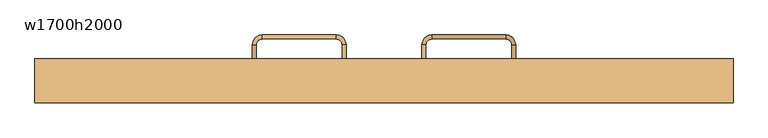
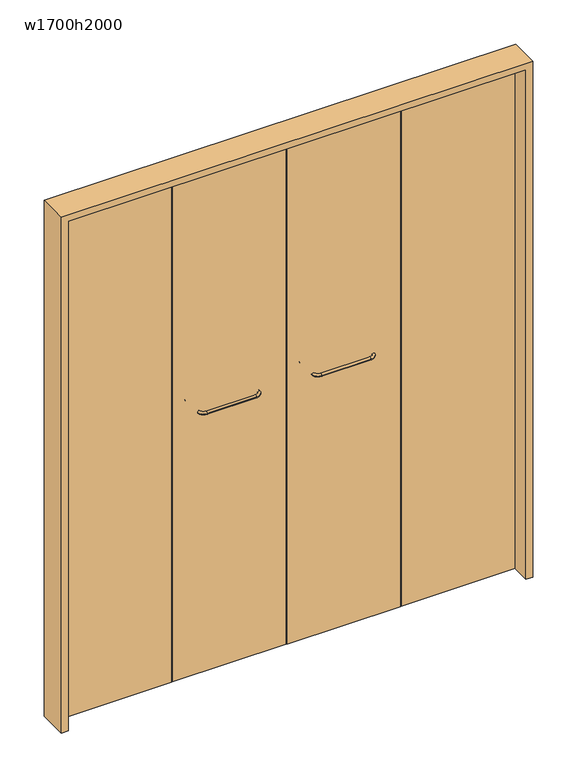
"""IFC4 building model written with IfcOpenShell, lengths in millimetres: door geometry, 木製折戸 : w1700h2000."""

from ifc_helpers import new_model, si_unit, point, frame, origin, origin_with_axes, place, context, project, spatial, polyline, circle_curve, ellipse_curve, trimmed, outline, extrude, source, transform, mapped, element, save
from ifc_brep_helpers import cylinder_surface, revolved_surface, advanced_brep


def w1700h2000_548ce087(model_context):
    return source(origin(), model_context, "Body", "SolidModel", [
        extrude(outline(polyline([(2025.0, -875.0), (0.0, -875.0), (0.0, -850.0), (2000.0, -850.0), (2000.0, 850.0), (0.0, 850.0), (0.0, 875.0), (2025.0, 875.0), (2025.0, -875.0)])), frame((0.0, -55.0, 0.0), z_axis=(0.0, 1.0, 0.0), x_axis=(0.0, 0.0, 1.0)), (0.0, 0.0, 1.0), 110.0),
        extrude(outline(polyline([(423.0, 15.0), (2.0, 15.0), (2.0, 45.0), (423.0, 45.0), (423.0, 15.0)])), origin_with_axes(), (0.0, 0.0, 1.0), 2000.0),
        extrude(outline(polyline([(850.0, 15.0), (427.0, 15.0), (427.0, 45.0), (850.0, 45.0), (850.0, 15.0)])), origin_with_axes(), (0.0, 0.0, 1.0), 2000.0),
        extrude(outline(polyline([(-2.0, 15.0), (-423.0, 15.0), (-423.0, 45.0), (-2.0, 45.0), (-2.0, 15.0)])), origin_with_axes(), (0.0, 0.0, 1.0), 2000.0),
        extrude(outline(polyline([(-427.0, 15.0), (-850.0, 15.0), (-850.0, 45.0), (-427.0, 45.0), (-427.0, 15.0)])), origin_with_axes(), (0.0, 0.0, 1.0), 2000.0),
        advanced_brep(
        [(95.0, 20.0, 1025.0), (120.0, -5.0, 1025.0), (120.0, 5.0, 1025.0), (105.0, 20.0, 1025.0), (105.0, 90.0, 1025.0), (95.0, 90.0, 1025.0), (120.0, 115.0, 1025.0), (120.0, 105.0, 1025.0), (305.0, 105.0, 1025.0), (305.0, 115.0, 1025.0), (330.0, 90.0, 1025.0), (320.0, 90.0, 1025.0), (320.0, 20.0, 1025.0), (330.0, 20.0, 1025.0), (305.0, -5.0, 1025.0), (305.0, 5.0, 1025.0)],
        [
            (0, 1, circle_curve(frame((120.0, 20.0, 1025.0), z_axis=(0.0, 0.0, 1.0), x_axis=(0.0, -1.0, 0.0)), 25.0)),
            (1, 2, circle_curve(frame((120.0, 0.0, 1025.0), z_axis=(-1.0, 0.0, 0.0), x_axis=(0.0, -1.0, 0.0)), 5.0)),
            (2, 3, circle_curve(frame((120.0, 20.0, 1025.0), z_axis=(0.0, 0.0, -1.0), x_axis=(0.0, -1.0, 0.0)), 15.0)),
            (3, 0, circle_curve(frame((100.0, 20.0, 1025.0), z_axis=(0.0, -1.0, 0.0), x_axis=(-1.0, 0.0, 0.0)), 5.0)),
            (2, 1, circle_curve(frame((120.0, 0.0, 1025.0), z_axis=(-1.0, 0.0, 0.0), x_axis=(0.0, -1.0, 0.0)), 5.0)),
            (0, 3, circle_curve(frame((100.0, 20.0, 1025.0), z_axis=(0.0, -1.0, 0.0), x_axis=(-1.0, 0.0, 0.0)), 5.0)),
            (3, 4),
            (4, 5, circle_curve(frame((100.0, 90.0, 1025.0), z_axis=(0.0, -1.0, 0.0), x_axis=(-1.0, 0.0, 0.0)), 5.0)),
            (5, 0),
            (5, 4, circle_curve(frame((100.0, 90.0, 1025.0), z_axis=(0.0, -1.0, 0.0), x_axis=(-1.0, 0.0, 0.0)), 5.0)),
            (6, 5, circle_curve(frame((120.0, 90.0, 1025.0), z_axis=(0.0, 0.0, 1.0), x_axis=(-1.0, 0.0, 0.0)), 25.0)),
            (4, 7, circle_curve(frame((120.0, 90.0, 1025.0), z_axis=(0.0, 0.0, -1.0), x_axis=(-1.0, 0.0, 0.0)), 15.0)),
            (7, 6, circle_curve(frame((120.0, 110.0, 1025.0), z_axis=(-1.0, 0.0, 0.0), x_axis=(0.0, 1.0, 0.0)), 5.0)),
            (6, 7, circle_curve(frame((120.0, 110.0, 1025.0), z_axis=(-1.0, 0.0, 0.0), x_axis=(0.0, 1.0, 0.0)), 5.0)),
            (7, 8),
            (8, 9, circle_curve(frame((305.0, 110.0, 1025.0), z_axis=(-1.0, 0.0, 0.0), x_axis=(0.0, 1.0, 0.0)), 5.0)),
            (9, 6),
            (9, 8, circle_curve(frame((305.0, 110.0, 1025.0), z_axis=(-1.0, 0.0, 0.0), x_axis=(0.0, 1.0, 0.0)), 5.0)),
            (10, 9, circle_curve(frame((305.0, 90.0, 1025.0), z_axis=(0.0, 0.0, 1.0), x_axis=(0.0, 1.0, 0.0)), 25.0)),
            (8, 11, circle_curve(frame((305.0, 90.0, 1025.0), z_axis=(0.0, 0.0, -1.0), x_axis=(0.0, 1.0, 0.0)), 15.0)),
            (11, 10, circle_curve(frame((325.0, 90.0, 1025.0), z_axis=(0.0, 1.0, 0.0), x_axis=(1.0, 0.0, 0.0)), 5.0)),
            (10, 11, circle_curve(frame((325.0, 90.0, 1025.0), z_axis=(0.0, 1.0, 0.0), x_axis=(1.0, 0.0, 0.0)), 5.0)),
            (11, 12),
            (12, 13, circle_curve(frame((325.0, 20.0, 1025.0), z_axis=(0.0, 1.0, 0.0), x_axis=(1.0, 0.0, 0.0)), 5.0)),
            (13, 10),
            (13, 12, circle_curve(frame((325.0, 20.0, 1025.0), z_axis=(0.0, 1.0, 0.0), x_axis=(1.0, 0.0, 0.0)), 5.0)),
            (14, 13, circle_curve(frame((305.0, 20.0, 1025.0), z_axis=(0.0, 0.0, 1.0), x_axis=(1.0, 0.0, 0.0)), 25.0)),
            (12, 15, circle_curve(frame((305.0, 20.0, 1025.0), z_axis=(0.0, 0.0, -1.0), x_axis=(1.0, 0.0, 0.0)), 15.0)),
            (15, 14, circle_curve(frame((305.0, 0.0, 1025.0), z_axis=(1.0, 0.0, 0.0), x_axis=(0.0, -1.0, 0.0)), 5.0)),
            (14, 15, circle_curve(frame((305.0, 0.0, 1025.0), z_axis=(1.0, 0.0, 0.0), x_axis=(0.0, -1.0, 0.0)), 5.0)),
            (15, 2),
            (1, 14),
        ],
        [
            revolved_surface(trimmed(ellipse_curve(frame((120.0, 0.0, 1025.0), z_axis=(1.0, 0.0, 0.0), x_axis=(0.0, -1.0, 0.0)), 5.0, 5.0), [point((120.0, 5.0, 1025.0))], [point((120.0, -5.0, 1025.0))], True, "CARTESIAN"), (120.0, 20.0, 0.0), (0.0, 0.0, -1.0)),
            revolved_surface(trimmed(ellipse_curve(frame((120.0, 0.0, 1025.0), z_axis=(1.0, 0.0, 0.0), x_axis=(0.0, -1.0, 0.0)), 5.0, 5.0), [point((120.0, -5.0, 1025.0))], [point((120.0, 5.0, 1025.0))], True, "CARTESIAN"), (120.0, 20.0, 0.0), (0.0, 0.0, -1.0)),
            cylinder_surface(frame((100.0, 20.0, 1025.0), z_axis=(0.0, -1.0, 0.0), x_axis=(-1.0, 0.0, 0.0)), 5.0),
            revolved_surface(trimmed(ellipse_curve(frame((100.0, 90.0, 1025.0), z_axis=(0.0, -1.0, 0.0), x_axis=(-1.0, 0.0, 0.0)), 5.0, 5.0), [point((105.0, 90.0, 1025.0))], [point((95.0, 90.0, 1025.0))], True, "CARTESIAN"), (120.0, 90.0, 0.0), (0.0, 0.0, -1.0)),
            revolved_surface(trimmed(ellipse_curve(frame((100.0, 90.0, 1025.0), z_axis=(0.0, -1.0, 0.0), x_axis=(-1.0, 0.0, 0.0)), 5.0, 5.0), [point((95.0, 90.0, 1025.0))], [point((105.0, 90.0, 1025.0))], True, "CARTESIAN"), (120.0, 90.0, 0.0), (0.0, 0.0, -1.0)),
            cylinder_surface(frame((120.0, 110.0, 1025.0), z_axis=(-1.0, 0.0, 0.0), x_axis=(0.0, 1.0, 0.0)), 5.0),
            revolved_surface(trimmed(ellipse_curve(frame((305.0, 110.0, 1025.0), z_axis=(-1.0, 0.0, 0.0), x_axis=(0.0, 1.0, 0.0)), 5.0, 5.0), [point((305.0, 105.0, 1025.0))], [point((305.0, 115.0, 1025.0))], True, "CARTESIAN"), (305.0, 90.0, 0.0), (0.0, 0.0, -1.0)),
            revolved_surface(trimmed(ellipse_curve(frame((305.0, 110.0, 1025.0), z_axis=(-1.0, 0.0, 0.0), x_axis=(0.0, 1.0, 0.0)), 5.0, 5.0), [point((305.0, 115.0, 1025.0))], [point((305.0, 105.0, 1025.0))], True, "CARTESIAN"), (305.0, 90.0, 0.0), (0.0, 0.0, -1.0)),
            cylinder_surface(frame((325.0, 90.0, 1025.0), z_axis=(0.0, 1.0, 0.0), x_axis=(1.0, 0.0, 0.0)), 5.0),
            revolved_surface(trimmed(ellipse_curve(frame((325.0, 20.0, 1025.0), z_axis=(0.0, 1.0, 0.0), x_axis=(1.0, 0.0, 0.0)), 5.0, 5.0), [point((320.0, 20.0, 1025.0))], [point((330.0, 20.0, 1025.0))], True, "CARTESIAN"), (305.0, 20.0, 0.0), (0.0, 0.0, -1.0)),
            revolved_surface(trimmed(ellipse_curve(frame((325.0, 20.0, 1025.0), z_axis=(0.0, 1.0, 0.0), x_axis=(1.0, 0.0, 0.0)), 5.0, 5.0), [point((330.0, 20.0, 1025.0))], [point((320.0, 20.0, 1025.0))], True, "CARTESIAN"), (305.0, 20.0, 0.0), (0.0, 0.0, -1.0)),
            cylinder_surface(frame((305.0, 0.0, 1025.0), z_axis=(1.0, 0.0, 0.0), x_axis=(0.0, -1.0, 0.0)), 5.0),
        ],
        [
            (0, [[1, 2, 3, 4]]),
            (1, [[-3, 5, -1, 6]]),
            (2, [[-4, 7, 8, 9]]),
            (2, [[-6, -9, 10, -7]]),
            (3, [[11, -8, 12, 13]]),
            (4, [[-12, -10, -11, 14]]),
            (5, [[-13, 15, 16, 17]]),
            (5, [[-14, -17, 18, -15]]),
            (6, [[19, -16, 20, 21]]),
            (7, [[-20, -18, -19, 22]]),
            (8, [[-21, 23, 24, 25]]),
            (8, [[-22, -25, 26, -23]]),
            (9, [[27, -24, 28, 29]]),
            (10, [[-28, -26, -27, 30]]),
            (11, [[-29, 31, -2, 32]]),
            (11, [[-30, -32, -5, -31]]),
        ],
    ),
        advanced_brep(
        [(-105.0, 20.0, 1025.0), (-120.0, 5.0, 1025.0), (-120.0, -5.0, 1025.0), (-95.0, 20.0, 1025.0), (-95.0, 90.0, 1025.0), (-105.0, 90.0, 1025.0), (-120.0, 105.0, 1025.0), (-120.0, 115.0, 1025.0), (-305.0, 115.0, 1025.0), (-305.0, 105.0, 1025.0), (-320.0, 90.0, 1025.0), (-330.0, 90.0, 1025.0), (-330.0, 20.0, 1025.0), (-320.0, 20.0, 1025.0), (-305.0, 5.0, 1025.0), (-305.0, -5.0, 1025.0)],
        [
            (0, 1, circle_curve(frame((-120.0, 20.0, 1025.0), z_axis=(0.0, 0.0, -1.0), x_axis=(0.0, -1.0, 0.0)), 15.0)),
            (1, 2, circle_curve(frame((-120.0, 0.0, 1025.0), z_axis=(1.0, 0.0, 0.0), x_axis=(0.0, 1.0, 0.0)), 5.0)),
            (2, 3, circle_curve(frame((-120.0, 20.0, 1025.0), z_axis=(0.0, 0.0, 1.0), x_axis=(0.0, -1.0, 0.0)), 25.0)),
            (3, 0, circle_curve(frame((-100.0, 20.0, 1025.0), z_axis=(0.0, -1.0, 0.0), x_axis=(-1.0, 0.0, 0.0)), 5.0)),
            (2, 1, circle_curve(frame((-120.0, 0.0, 1025.0), z_axis=(1.0, 0.0, 0.0), x_axis=(0.0, 1.0, 0.0)), 5.0)),
            (0, 3, circle_curve(frame((-100.0, 20.0, 1025.0), z_axis=(0.0, -1.0, 0.0), x_axis=(-1.0, 0.0, 0.0)), 5.0)),
            (3, 4),
            (4, 5, circle_curve(frame((-100.0, 90.0, 1025.0), z_axis=(0.0, -1.0, 0.0), x_axis=(-1.0, 0.0, 0.0)), 5.0)),
            (5, 0),
            (5, 4, circle_curve(frame((-100.0, 90.0, 1025.0), z_axis=(0.0, -1.0, 0.0), x_axis=(-1.0, 0.0, 0.0)), 5.0)),
            (6, 5, circle_curve(frame((-120.0, 90.0, 1025.0), z_axis=(0.0, 0.0, -1.0), x_axis=(1.0, 0.0, 0.0)), 15.0)),
            (4, 7, circle_curve(frame((-120.0, 90.0, 1025.0), z_axis=(0.0, 0.0, 1.0), x_axis=(1.0, 0.0, 0.0)), 25.0)),
            (7, 6, circle_curve(frame((-120.0, 110.0, 1025.0), z_axis=(1.0, 0.0, 0.0), x_axis=(0.0, -1.0, 0.0)), 5.0)),
            (6, 7, circle_curve(frame((-120.0, 110.0, 1025.0), z_axis=(1.0, 0.0, 0.0), x_axis=(0.0, -1.0, 0.0)), 5.0)),
            (7, 8),
            (8, 9, circle_curve(frame((-305.0, 110.0, 1025.0), z_axis=(1.0, 0.0, 0.0), x_axis=(0.0, -1.0, 0.0)), 5.0)),
            (9, 6),
            (9, 8, circle_curve(frame((-305.0, 110.0, 1025.0), z_axis=(1.0, 0.0, 0.0), x_axis=(0.0, -1.0, 0.0)), 5.0)),
            (10, 9, circle_curve(frame((-305.0, 90.0, 1025.0), z_axis=(0.0, 0.0, -1.0), x_axis=(0.0, 1.0, 0.0)), 15.0)),
            (8, 11, circle_curve(frame((-305.0, 90.0, 1025.0), z_axis=(0.0, 0.0, 1.0), x_axis=(0.0, 1.0, 0.0)), 25.0)),
            (11, 10, circle_curve(frame((-325.0, 90.0, 1025.0), z_axis=(0.0, 1.0, 0.0), x_axis=(1.0, 0.0, 0.0)), 5.0)),
            (10, 11, circle_curve(frame((-325.0, 90.0, 1025.0), z_axis=(0.0, 1.0, 0.0), x_axis=(1.0, 0.0, 0.0)), 5.0)),
            (11, 12),
            (12, 13, circle_curve(frame((-325.0, 20.0, 1025.0), z_axis=(0.0, 1.0, 0.0), x_axis=(1.0, 0.0, 0.0)), 5.0)),
            (13, 10),
            (13, 12, circle_curve(frame((-325.0, 20.0, 1025.0), z_axis=(0.0, 1.0, 0.0), x_axis=(1.0, 0.0, 0.0)), 5.0)),
            (14, 13, circle_curve(frame((-305.0, 20.0, 1025.0), z_axis=(0.0, 0.0, -1.0), x_axis=(-1.0, 0.0, 0.0)), 15.0)),
            (12, 15, circle_curve(frame((-305.0, 20.0, 1025.0), z_axis=(0.0, 0.0, 1.0), x_axis=(-1.0, 0.0, 0.0)), 25.0)),
            (15, 14, circle_curve(frame((-305.0, 0.0, 1025.0), z_axis=(-1.0, 0.0, 0.0), x_axis=(0.0, 1.0, 0.0)), 5.0)),
            (14, 15, circle_curve(frame((-305.0, 0.0, 1025.0), z_axis=(-1.0, 0.0, 0.0), x_axis=(0.0, 1.0, 0.0)), 5.0)),
            (15, 2),
            (1, 14),
        ],
        [
            revolved_surface(trimmed(ellipse_curve(frame((-120.0, 0.0, 1025.0), z_axis=(-1.0, 0.0, 0.0), x_axis=(0.0, 1.0, 0.0)), 5.0, 5.0), [point((-120.0, -5.0, 1025.0))], [point((-120.0, 5.0, 1025.0))], True, "CARTESIAN"), (-120.0, 20.0, 0.0), (0.0, 0.0, 1.0)),
            revolved_surface(trimmed(ellipse_curve(frame((-120.0, 0.0, 1025.0), z_axis=(-1.0, 0.0, 0.0), x_axis=(0.0, 1.0, 0.0)), 5.0, 5.0), [point((-120.0, 5.0, 1025.0))], [point((-120.0, -5.0, 1025.0))], True, "CARTESIAN"), (-120.0, 20.0, 0.0), (0.0, 0.0, 1.0)),
            cylinder_surface(frame((-100.0, 20.0, 1025.0), z_axis=(0.0, -1.0, 0.0), x_axis=(-1.0, 0.0, 0.0)), 5.0),
            revolved_surface(trimmed(ellipse_curve(frame((-100.0, 90.0, 1025.0), z_axis=(0.0, -1.0, 0.0), x_axis=(-1.0, 0.0, 0.0)), 5.0, 5.0), [point((-95.0, 90.0, 1025.0))], [point((-105.0, 90.0, 1025.0))], True, "CARTESIAN"), (-120.0, 90.0, 0.0), (0.0, 0.0, 1.0)),
            revolved_surface(trimmed(ellipse_curve(frame((-100.0, 90.0, 1025.0), z_axis=(0.0, -1.0, 0.0), x_axis=(-1.0, 0.0, 0.0)), 5.0, 5.0), [point((-105.0, 90.0, 1025.0))], [point((-95.0, 90.0, 1025.0))], True, "CARTESIAN"), (-120.0, 90.0, 0.0), (0.0, 0.0, 1.0)),
            cylinder_surface(frame((-120.0, 110.0, 1025.0), z_axis=(1.0, 0.0, 0.0), x_axis=(0.0, -1.0, 0.0)), 5.0),
            revolved_surface(trimmed(ellipse_curve(frame((-305.0, 110.0, 1025.0), z_axis=(1.0, 0.0, 0.0), x_axis=(0.0, -1.0, 0.0)), 5.0, 5.0), [point((-305.0, 115.0, 1025.0))], [point((-305.0, 105.0, 1025.0))], True, "CARTESIAN"), (-305.0, 90.0, 0.0), (0.0, 0.0, 1.0)),
            revolved_surface(trimmed(ellipse_curve(frame((-305.0, 110.0, 1025.0), z_axis=(1.0, 0.0, 0.0), x_axis=(0.0, -1.0, 0.0)), 5.0, 5.0), [point((-305.0, 105.0, 1025.0))], [point((-305.0, 115.0, 1025.0))], True, "CARTESIAN"), (-305.0, 90.0, 0.0), (0.0, 0.0, 1.0)),
            cylinder_surface(frame((-325.0, 90.0, 1025.0), z_axis=(0.0, 1.0, 0.0), x_axis=(1.0, 0.0, 0.0)), 5.0),
            revolved_surface(trimmed(ellipse_curve(frame((-325.0, 20.0, 1025.0), z_axis=(0.0, 1.0, 0.0), x_axis=(1.0, 0.0, 0.0)), 5.0, 5.0), [point((-330.0, 20.0, 1025.0))], [point((-320.0, 20.0, 1025.0))], True, "CARTESIAN"), (-305.0, 20.0, 0.0), (0.0, 0.0, 1.0)),
            revolved_surface(trimmed(ellipse_curve(frame((-325.0, 20.0, 1025.0), z_axis=(0.0, 1.0, 0.0), x_axis=(1.0, 0.0, 0.0)), 5.0, 5.0), [point((-320.0, 20.0, 1025.0))], [point((-330.0, 20.0, 1025.0))], True, "CARTESIAN"), (-305.0, 20.0, 0.0), (0.0, 0.0, 1.0)),
            cylinder_surface(frame((-305.0, 0.0, 1025.0), z_axis=(-1.0, 0.0, 0.0), x_axis=(0.0, 1.0, 0.0)), 5.0),
        ],
        [
            (0, [[1, 2, 3, 4]]),
            (1, [[-3, 5, -1, 6]]),
            (2, [[-4, 7, 8, 9]]),
            (2, [[-6, -9, 10, -7]]),
            (3, [[11, -8, 12, 13]]),
            (4, [[-12, -10, -11, 14]]),
            (5, [[-13, 15, 16, 17]]),
            (5, [[-14, -17, 18, -15]]),
            (6, [[19, -16, 20, 21]]),
            (7, [[-20, -18, -19, 22]]),
            (8, [[-21, 23, 24, 25]]),
            (8, [[-22, -25, 26, -23]]),
            (9, [[27, -24, 28, 29]]),
            (10, [[-28, -26, -27, 30]]),
            (11, [[-29, 31, -2, 32]]),
            (11, [[-30, -32, -5, -31]]),
        ],
    ),
    ])


if __name__ == "__main__":
    model = new_model("IFC4")
    model_context = context("Model", 3, world=origin())
    ifc_project = project(units=[si_unit("LENGTHUNIT", "METRE", prefix="MILLI")], contexts=[model_context])
    site = spatial("IfcSite", under=ifc_project)
    building = spatial("IfcBuilding", under=site)
    placement = place(None, origin())
    w1700h2000_shape = w1700h2000_548ce087(model_context)
    element("IfcDoor", 1, ObjectType="木製折戸 : w1700h2000", at=placement, inside=building, context=model_context, shape_type="MappedRepresentation", body=[
        mapped(w1700h2000_shape, transform((0.0, 0.0, 0.0), x_axis=(1.0, 0.0, 0.0), y_axis=(0.0, 1.0, 0.0), z_axis=(0.0, 0.0, 1.0))),
    ])
    save(model, "model.ifc")
